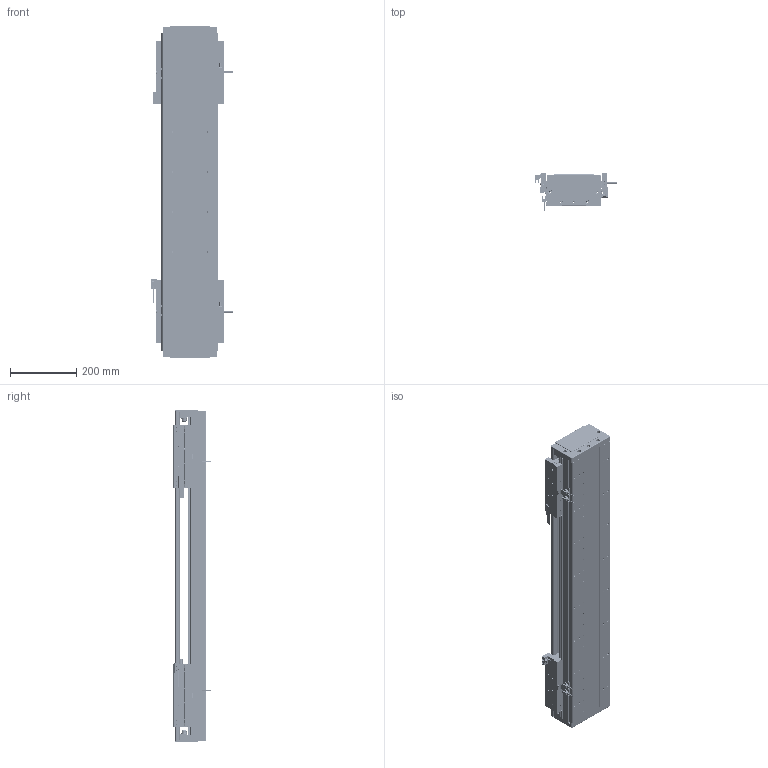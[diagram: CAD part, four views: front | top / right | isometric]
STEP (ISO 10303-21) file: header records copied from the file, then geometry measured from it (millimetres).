
FILE_DESCRIPTION (( 'STEP AP203' ), '1' );
FILE_NAME ('DA-C165-2-C2-T500-C010-0.2 直线电机.STEP', '2023-05-11T08:16:30', ( '微软用户' ), ( '微软中国' ), 'SwSTEP 2.0', 'SolidWorks 2019', '' );
FILE_SCHEMA (( 'CONFIG_CONTROL_DESIGN' ));
Length unit declared in the file: millimetre
Products named in the file (19): 复件 DA165-DG-H-N-00 端盖^DA-C165-C2-T-C010-0.2-N 直线电机; IU-CU165-L-00 菁釱_L960; 复件 DA126-GYP-ZJ-00 中间光电感应片^DA-C165-C2-T-C010-0.2-N 直线电机; 葩璃 DA95-GT-T-00^IU-CU165-L 菁釱絳寢_T; 葩璃 CKM01-W075-TRL^DA-C165-C2-T-C010-0.2-N 眻盄萇儂; 复件 66338-1000-006-00 光电感应块^DA-C165-C2-T-C010-0.2-N 直线电机; 葩璃 PM-T45^DA-C165-C2-T-C010-0.2-N 眻盄萇儂; 复件 CKM02-W075-C1C2-TP-3.0 一体电机-C2^DA-C165-C2-T-C010-0.2-N 直线电机; 复件 DA165-T-002-00 盖板^DA-C165-C2-T-C010-0.2-N 直线电机_0840-002-00; IU-CU165-L 菁釱絳寢; 复件 六角薄螺母 M3^DA-C165-C2-T-C010-0.2-N 直线电机_GB_FASTENER_NUT_STNAB M3-C; 珨极趙賑雄怢啣wf-C2; 复件 XD-U-02L 磁栅尺^DA-C165-C2-T-C010-0.2-N 直线电机_T; 复件 DMA-010-0.2 读数头^DA-C165-C2-T-C010-0.2-N 直线电机; 复件 DA95-HXJ-00 缓冲橡胶^DA-C165-C2-T-C010-0.2-N 直线电机; 复件 DA165-GYP-00 光电感应片^DA-C165-C2-T-C010-0.2-N 直线电机; 葩璃 PM-Y45^DA-C165-C2-T-C010-0.2-N 眻盄萇儂; 复件 DKW-HXJ-JY-00 缓冲橡胶^DA-C165-C2-T-C010-0.2-N 直线电机; DA-C165-2-C2-T500-C010-0.2 眻盄萇儂
Assembly tree (38 placements, depth 3):
  DA-C165-2-C2-T500-C010-0.2 眻盄萇儂
    IU-CU165-L 菁釱絳寢
      IU-CU165-L-00 菁釱_L960
      葩璃 DA95-GT-T-00^IU-CU165-L 菁釱絳寢_T  x4
    复件 DA165-DG-H-N-00 端盖^DA-C165-C2-T-C010-0.2-N 直线电机  x2
    复件 DA95-HXJ-00 缓冲橡胶^DA-C165-C2-T-C010-0.2-N 直线电机  x4
    复件 DA165-T-002-00 盖板^DA-C165-C2-T-C010-0.2-N 直线电机_0840-002-00
    复件 XD-U-02L 磁栅尺^DA-C165-C2-T-C010-0.2-N 直线电机_T
    葩璃 PM-T45^DA-C165-C2-T-C010-0.2-N 眻盄萇儂  x4
    葩璃 CKM01-W075-TRL^DA-C165-C2-T-C010-0.2-N 眻盄萇儂
    复件 CKM02-W075-C1C2-TP-3.0 一体电机-C2^DA-C165-C2-T-C010-0.2-N 直线电机  x2
    复件 DMA-010-0.2 读数头^DA-C165-C2-T-C010-0.2-N 直线电机  x2
    复件 DA165-GYP-00 光电感应片^DA-C165-C2-T-C010-0.2-N 直线电机  x2
    复件 66338-1000-006-00 光电感应块^DA-C165-C2-T-C010-0.2-N 直线电机
    葩璃 PM-Y45^DA-C165-C2-T-C010-0.2-N 眻盄萇儂
    复件 DA126-GYP-ZJ-00 中间光电感应片^DA-C165-C2-T-C010-0.2-N 直线电机
    复件 DKW-HXJ-JY-00 缓冲橡胶^DA-C165-C2-T-C010-0.2-N 直线电机  x2
    复件 六角薄螺母 M3^DA-C165-C2-T-C010-0.2-N 直线电机_GB_FASTENER_NUT_STNAB M3-C  x6
    珨极趙賑雄怢啣wf-C2  x2
Bounding box: 247.2 x 111.45 x 1000 mm (x, y, z)
Volume: 9043244.5 mm3; surface area: 2316381 mm2
Topology: 115 solids, 115 shells, 4808 faces, 12735 edges, 7904 vertices
Faces by surface type: cylinder 2270, plane 1762, cone 680, torus 88, sphere 8
Entity records: 95236 total; most frequent: CARTESIAN_POINT 21474, DIRECTION 15117, ORIENTED_EDGE 14716, EDGE_CURVE 7358, AXIS2_PLACEMENT_3D 5618, VERTEX_POINT 4741, VECTOR 3881, LINE 3881
